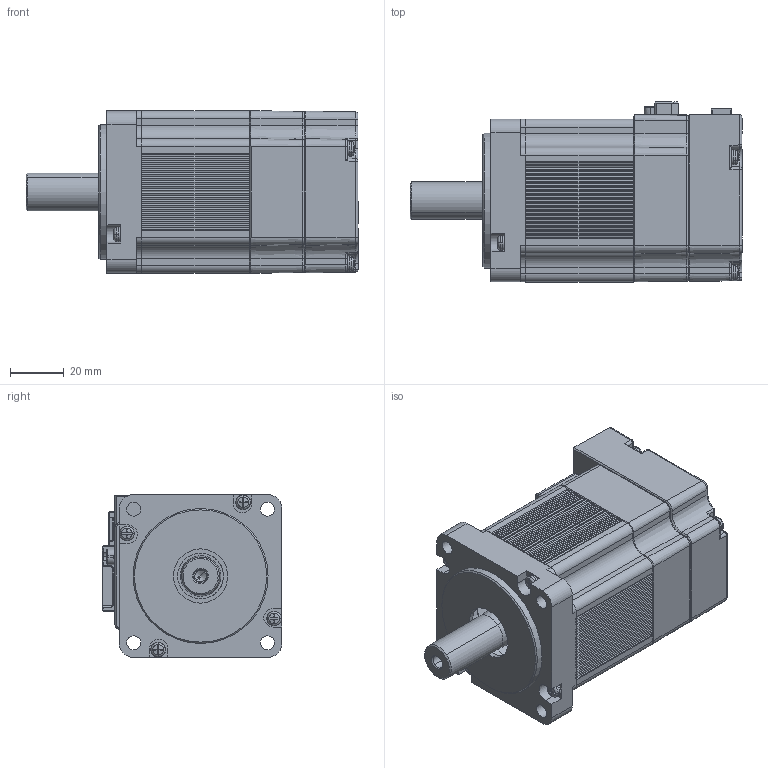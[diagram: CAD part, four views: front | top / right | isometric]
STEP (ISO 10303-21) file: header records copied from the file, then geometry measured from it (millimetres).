
FILE_DESCRIPTION (( 'STEP AP203' ), '1' );
FILE_NAME ('60-400W_NB.STEP', '2022-09-07T06:42:08', ( '' ), ( '' ), 'SwSTEP 2.0', 'SolidWorks 2020', '' );
FILE_SCHEMA (( 'CONFIG_CONTROL_DESIGN' ));
Length unit declared in the file: millimetre
Products named in the file (9): __60-400W FRAME.STEP; 60-200W 具胶墨客 海绢傅 函版 敲罚瘤; ENCODER Receptacle.STEP; 60-400W_NB; M3X15_____.STEP; __60 BRACKET(NON BRAKE)___________ ______.STEP; __60-400W SHAFT.STEP; __60 ENCODER COVER___________ ______.STEP; POWER RECEPTACLE.STEP
Assembly tree (15 placements, depth 2):
  60-400W_NB
    __60-400W FRAME.STEP
    __60-400W SHAFT.STEP
    ENCODER Receptacle.STEP
    POWER RECEPTACLE.STEP
    M3X15_____.STEP  x8
    __60 ENCODER COVER___________ ______.STEP
    __60 BRACKET(NON BRAKE)___________ ______.STEP
    60-200W 具胶墨客 海绢傅 函版 敲罚瘤
Bounding box: 123 x 66.65 x 60.3 mm (x, y, z)
Volume: 111461.1 mm3; surface area: 71805.4 mm2
Topology: 15 solids, 21 shells, 2029 faces, 5189 edges, 3264 vertices
Faces by surface type: plane 1051, cylinder 548, bspline 179, cone 160, torus 63, sphere 28
Full cylindrical faces by diameter (mm): 3.5 x4, 20.103 x1, 37 x1, 40.103 x1, 50 x1, 56.703 x1
Entity records: 61153 total; most frequent: CARTESIAN_POINT 16083, ORIENTED_EDGE 9332, DIRECTION 8961, EDGE_CURVE 4666, AXIS2_PLACEMENT_3D 3012, VERTEX_POINT 2951, VECTOR 2937, LINE 2937
